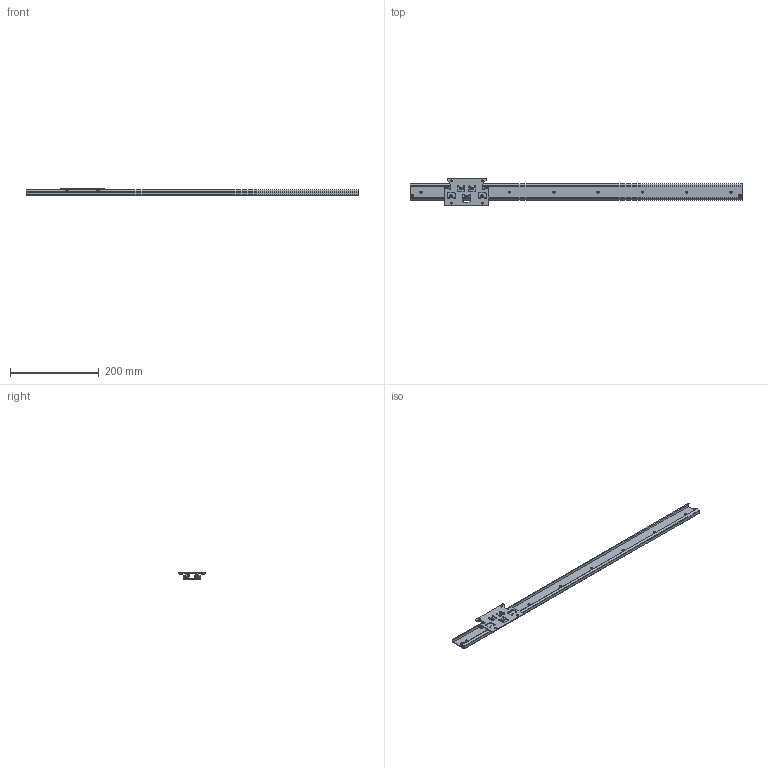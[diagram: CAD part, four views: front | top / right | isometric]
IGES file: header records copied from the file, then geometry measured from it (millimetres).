
Global section: native system: Kubotek KeyCreator; preprocessor: KCM Version 1.1.1442.0; author: KeyCreator User; organization: Self; date: 20181022.105756; units: millimetre
Bounding box: 750 x 60 x 14.8 mm (x, y, z)
Surface area: 107430.6 mm2 (no closed solid volume)
Topology: 0 solids, 0 shells, 923 faces, 6157 edges, 6158 vertices
Faces by surface type: bspline 923
